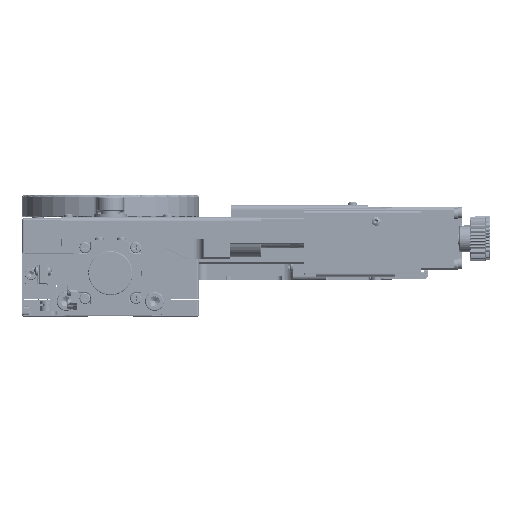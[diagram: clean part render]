
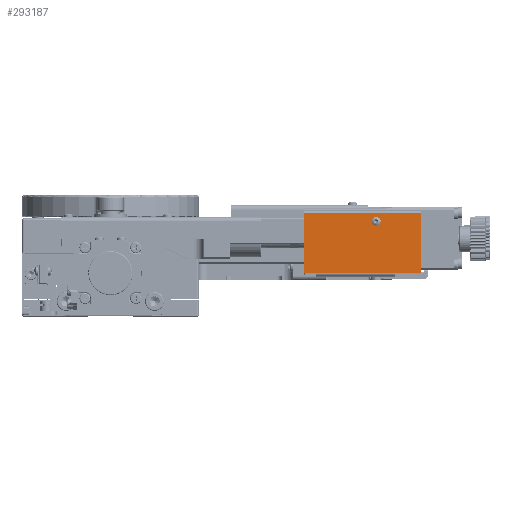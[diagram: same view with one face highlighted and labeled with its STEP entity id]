
A CAD part, top view. The second image highlights one B-rep face of the part: STEP entity #293187.
In plain terms, the highlighted planar face has unit normal (0, 0, 1).
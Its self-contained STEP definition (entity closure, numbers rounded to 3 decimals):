
#3836 = VERTEX_POINT ( 'NONE', #302317 ) ;
#9886 = ORIENTED_EDGE ( 'NONE', *, *, #345656, .T. ) ;
#11574 = LINE ( 'NONE', #129364, #290400 ) ;
#17566 = FACE_BOUND ( 'NONE', #214211, .T. ) ;
#24938 = CARTESIAN_POINT ( 'NONE',  ( 116.492, 15.637, 58.917 ) ) ;
#29314 = VERTEX_POINT ( 'NONE', #133752 ) ;
#42656 = DIRECTION ( 'NONE',  ( 0., 0., 1. ) ) ;
#52112 = VERTEX_POINT ( 'NONE', #115469 ) ;
#57277 = ORIENTED_EDGE ( 'NONE', *, *, #269356, .F. ) ;
#57374 = VERTEX_POINT ( 'NONE', #358432 ) ;
#66603 = CARTESIAN_POINT ( 'NONE',  ( 136.891, 19.342, 58.917 ) ) ;
#75789 = CARTESIAN_POINT ( 'NONE',  ( 88.691, 19.342, 58.917 ) ) ;
#76202 = CARTESIAN_POINT ( 'NONE',  ( 118.492, 15.637, 58.917 ) ) ;
#82288 = CARTESIAN_POINT ( 'NONE',  ( 116.791, -27.458, 58.917 ) ) ;
#86072 = EDGE_CURVE ( 'NONE', #52112, #57374, #277029, .T. ) ;
#88227 = VERTEX_POINT ( 'NONE', #76202 ) ;
#100690 = AXIS2_PLACEMENT_3D ( 'NONE', #24938, #101157, #277973 ) ;
#101157 = DIRECTION ( 'NONE',  ( 0., 0., 1. ) ) ;
#109345 = AXIS2_PLACEMENT_3D ( 'NONE', #329482, #356991, #301932 ) ;
#115469 = CARTESIAN_POINT ( 'NONE',  ( 136.391, -7.858, 58.917 ) ) ;
#119602 = EDGE_CURVE ( 'NONE', #370031, #52112, #368863, .T. ) ;
#123603 = EDGE_CURVE ( 'NONE', #88227, #29314, #275881, .T. ) ;
#123957 = EDGE_LOOP ( 'NONE', ( #158628, #210820, #237003, #362480, #169710, #9886 ) ) ;
#129364 = CARTESIAN_POINT ( 'NONE',  ( 83.691, 0.642, 58.917 ) ) ;
#133752 = CARTESIAN_POINT ( 'NONE',  ( 114.492, 15.637, 58.917 ) ) ;
#134839 = CARTESIAN_POINT ( 'NONE',  ( 116.492, 15.637, 58.917 ) ) ;
#139248 = PLANE ( 'NONE',  #109345 ) ;
#141485 = CARTESIAN_POINT ( 'NONE',  ( 82.191, -5.858, 58.917 ) ) ;
#158628 = ORIENTED_EDGE ( 'NONE', *, *, #292586, .T. ) ;
#164320 = DIRECTION ( 'NONE',  ( -1., 0., 0. ) ) ;
#166331 = VECTOR ( 'NONE', #270056, 1000. ) ;
#167267 = VECTOR ( 'NONE', #201787, 1000. ) ;
#169710 = ORIENTED_EDGE ( 'NONE', *, *, #86072, .T. ) ;
#193830 = LINE ( 'NONE', #75789, #221321 ) ;
#201787 = DIRECTION ( 'NONE',  ( 1., 0., 0. ) ) ;
#210820 = ORIENTED_EDGE ( 'NONE', *, *, #279506, .T. ) ;
#213153 = LINE ( 'NONE', #356480, #166331 ) ;
#214211 = EDGE_LOOP ( 'NONE', ( #57277, #243006 ) ) ;
#221321 = VECTOR ( 'NONE', #164320, 1000. ) ;
#227108 = DIRECTION ( 'NONE',  ( 1., 0., 0. ) ) ;
#232997 = VERTEX_POINT ( 'NONE', #314497 ) ;
#233728 = DIRECTION ( 'NONE',  ( 0.707, -0.707, 0. ) ) ;
#237003 = ORIENTED_EDGE ( 'NONE', *, *, #280845, .T. ) ;
#243006 = ORIENTED_EDGE ( 'NONE', *, *, #123603, .F. ) ;
#246888 = CARTESIAN_POINT ( 'NONE',  ( 84.191, -7.858, 58.917 ) ) ;
#257008 = FACE_OUTER_BOUND ( 'NONE', #123957, .T. ) ;
#269356 = EDGE_CURVE ( 'NONE', #29314, #88227, #382952, .T. ) ;
#270056 = DIRECTION ( 'NONE',  ( 0., 1., 0. ) ) ;
#274650 = DIRECTION ( 'NONE',  ( 0., -1., 0. ) ) ;
#275881 = CIRCLE ( 'NONE', #282094, 2. ) ;
#277029 = LINE ( 'NONE', #82288, #371627 ) ;
#277973 = DIRECTION ( 'NONE',  ( 1., 0., 0. ) ) ;
#279506 = EDGE_CURVE ( 'NONE', #232997, #3836, #11574, .T. ) ;
#280845 = EDGE_CURVE ( 'NONE', #3836, #370031, #345847, .T. ) ;
#282094 = AXIS2_PLACEMENT_3D ( 'NONE', #134839, #42656, #227108 ) ;
#290400 = VECTOR ( 'NONE', #274650, 1000. ) ;
#292586 = EDGE_CURVE ( 'NONE', #350588, #232997, #193830, .T. ) ;
#293187 = ADVANCED_FACE ( 'NONE', ( #17566, #257008 ), #139248, .T. ) ;
#301932 = DIRECTION ( 'NONE',  ( 1., 0., 0. ) ) ;
#302317 = CARTESIAN_POINT ( 'NONE',  ( 83.691, -7.358, 58.917 ) ) ;
#304945 = VECTOR ( 'NONE', #233728, 1000. ) ;
#314497 = CARTESIAN_POINT ( 'NONE',  ( 83.691, 19.342, 58.917 ) ) ;
#329482 = CARTESIAN_POINT ( 'NONE',  ( 88.691, 0.642, 58.917 ) ) ;
#339378 = CARTESIAN_POINT ( 'NONE',  ( 125.191, -7.858, 58.917 ) ) ;
#345656 = EDGE_CURVE ( 'NONE', #57374, #350588, #213153, .T. ) ;
#345847 = LINE ( 'NONE', #141485, #304945 ) ;
#350588 = VERTEX_POINT ( 'NONE', #66603 ) ;
#356480 = CARTESIAN_POINT ( 'NONE',  ( 136.891, 0.642, 58.917 ) ) ;
#356991 = DIRECTION ( 'NONE',  ( 0., 0., 1. ) ) ;
#358432 = CARTESIAN_POINT ( 'NONE',  ( 136.891, -7.358, 58.917 ) ) ;
#362480 = ORIENTED_EDGE ( 'NONE', *, *, #119602, .T. ) ;
#368863 = LINE ( 'NONE', #339378, #167267 ) ;
#370031 = VERTEX_POINT ( 'NONE', #246888 ) ;
#371627 = VECTOR ( 'NONE', #378917, 1000. ) ;
#378917 = DIRECTION ( 'NONE',  ( 0.707, 0.707, 0. ) ) ;
#382952 = CIRCLE ( 'NONE', #100690, 2. ) ;
